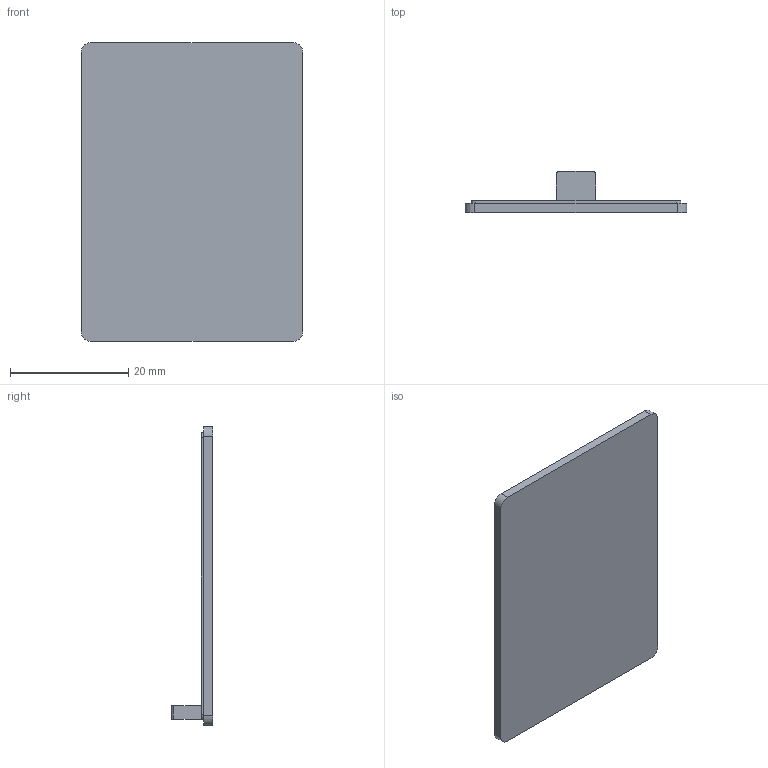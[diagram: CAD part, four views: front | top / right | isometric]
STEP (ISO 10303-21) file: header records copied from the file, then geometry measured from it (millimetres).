
FILE_DESCRIPTION (( 'STEP AP214' ), '1' );
FILE_NAME ('C-1502-N.STEP', '2010-03-15T13:17:09', ( 'steve began' ), ( 'Polycase' ), 'SwSTEP 2.0', 'SolidWorks 2009', '' );
FILE_SCHEMA (( 'AUTOMOTIVE_DESIGN' ));
Length unit declared in the file: inch
Products named in the file (1): C-1502-N
Bounding box: 37.47 x 6.99 x 50.42 mm (x, y, z)
Volume: 3602.6 mm3; surface area: 4189.4 mm2
Topology: 1 solids, 1 shells, 25 faces, 66 edges, 44 vertices
Faces by surface type: plane 15, cylinder 10
Entity records: 820 total; most frequent: DIRECTION 138, CARTESIAN_POINT 136, ORIENTED_EDGE 132, EDGE_CURVE 66, AXIS2_PLACEMENT_3D 46, VECTOR 46, LINE 46, VERTEX_POINT 44
